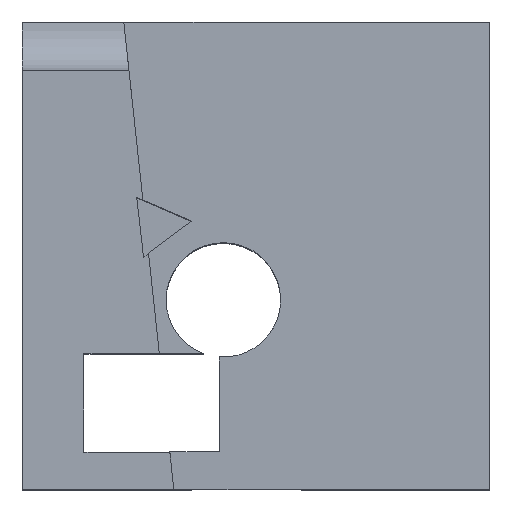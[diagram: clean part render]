
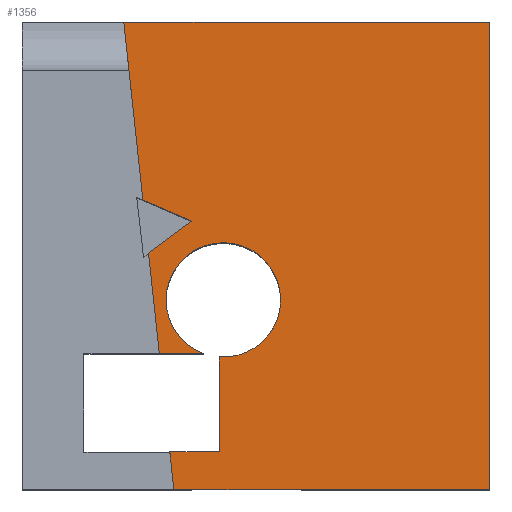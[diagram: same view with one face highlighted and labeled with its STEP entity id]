
A CAD part, top view. The second image highlights one B-rep face of the part: STEP entity #1356.
In plain terms, the highlighted planar face has unit normal (0, 0, 1).
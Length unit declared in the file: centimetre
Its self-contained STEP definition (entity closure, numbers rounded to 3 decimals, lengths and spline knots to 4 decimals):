
#7 = VECTOR ( 'NONE', #1150, 100. ) ;
#12 = EDGE_CURVE ( 'NONE', #1571, #1252, #1138, .T. ) ;
#13 = VECTOR ( 'NONE', #1798, 100. ) ;
#42 = EDGE_CURVE ( 'NONE', #417, #1571, #1019, .T. ) ;
#65 = CARTESIAN_POINT ( 'NONE',  ( 430.1813, 405.7106, 1000. ) ) ;
#82 = ORIENTED_EDGE ( 'NONE', *, *, #689, .T. ) ;
#104 = CARTESIAN_POINT ( 'NONE',  ( 307.746, 405.7106, 1000. ) ) ;
#106 = ORIENTED_EDGE ( 'NONE', *, *, #1865, .F. ) ;
#110 = EDGE_CURVE ( 'NONE', #502, #687, #924, .T. ) ;
#135 = VERTEX_POINT ( 'NONE', #1804 ) ;
#147 = CARTESIAN_POINT ( 'NONE',  ( 552.6166, 405.7106, 1000. ) ) ;
#175 = EDGE_CURVE ( 'NONE', #1669, #417, #1285, .T. ) ;
#225 = CARTESIAN_POINT ( 'NONE',  ( 315.6615, 80.5416, 1000. ) ) ;
#249 = EDGE_CURVE ( 'NONE', #687, #1048, #697, .T. ) ;
#251 = CARTESIAN_POINT ( 'NONE',  ( 388.2468, 290.6807, 1000. ) ) ;
#263 = EDGE_CURVE ( 'NONE', #135, #809, #1550, .T. ) ;
#268 = ORIENTED_EDGE ( 'NONE', *, *, #263, .F. ) ;
#278 = ORIENTED_EDGE ( 'NONE', *, *, #175, .F. ) ;
#285 = CARTESIAN_POINT ( 'NONE',  ( 1000., 1000., 1000. ) ) ;
#319 = CARTESIAN_POINT ( 'NONE',  ( 270.1973, 505.4649, 1000. ) ) ;
#364 = DIRECTION ( 'NONE',  ( 1., 0., 0. ) ) ;
#376 = VERTEX_POINT ( 'NONE', #539 ) ;
#383 = ORIENTED_EDGE ( 'NONE', *, *, #12, .F. ) ;
#385 = ORIENTED_EDGE ( 'NONE', *, *, #906, .F. ) ;
#389 = DIRECTION ( 'NONE',  ( -0.918, 0.398, 0. ) ) ;
#397 = CARTESIAN_POINT ( 'NONE',  ( 0., 1000., 1000. ) ) ;
#400 = ORIENTED_EDGE ( 'NONE', *, *, #1653, .F. ) ;
#417 = VERTEX_POINT ( 'NONE', #225 ) ;
#421 = CARTESIAN_POINT ( 'NONE',  ( 217.2851, 1000., 1000. ) ) ;
#424 = DIRECTION ( 'NONE',  ( 0., 1., 0. ) ) ;
#452 = AXIS2_PLACEMENT_3D ( 'NONE', #1097, #1674, #538 ) ;
#473 = ORIENTED_EDGE ( 'NONE', *, *, #1706, .F. ) ;
#502 = VERTEX_POINT ( 'NONE', #147 ) ;
#506 = VECTOR ( 'NONE', #1727, 100. ) ;
#522 = ORIENTED_EDGE ( 'NONE', *, *, #42, .F. ) ;
#537 = DIRECTION ( 'NONE',  ( 0., 0., 1. ) ) ;
#538 = DIRECTION ( 'NONE',  ( 1., 0., 0. ) ) ;
#539 = CARTESIAN_POINT ( 'NONE',  ( 1000., 0., 1000. ) ) ;
#546 = CARTESIAN_POINT ( 'NONE',  ( 0., 0., 1000. ) ) ;
#568 = LINE ( 'NONE', #1719, #7 ) ;
#572 = AXIS2_PLACEMENT_3D ( 'NONE', #1222, #1081, #364 ) ;
#619 = DIRECTION ( 'NONE',  ( 0., 0., 1. ) ) ;
#620 = LINE ( 'NONE', #1637, #1462 ) ;
#642 = CARTESIAN_POINT ( 'NONE',  ( 257.9533, 619.9016, 1000. ) ) ;
#687 = VERTEX_POINT ( 'NONE', #104 ) ;
#689 = EDGE_CURVE ( 'NONE', #1669, #376, #1579, .T. ) ;
#697 = CIRCLE ( 'NONE', #1672, 122.4353 ) ;
#714 = CARTESIAN_POINT ( 'NONE',  ( 363.0565, 574.3617, 1000. ) ) ;
#746 = EDGE_CURVE ( 'NONE', #1482, #1128, #1114, .T. ) ;
#808 = ORIENTED_EDGE ( 'NONE', *, *, #1516, .T. ) ;
#809 = VERTEX_POINT ( 'NONE', #319 ) ;
#858 = CARTESIAN_POINT ( 'NONE',  ( 132.0472, 80.5416, 1000. ) ) ;
#866 = CARTESIAN_POINT ( 'NONE',  ( 132.0472, 290.6807, 1000. ) ) ;
#868 = DIRECTION ( 'NONE',  ( 1., 0., 0. ) ) ;
#880 = VECTOR ( 'NONE', #389, 100. ) ;
#905 = EDGE_LOOP ( 'NONE', ( #400, #383, #522, #278, #82, #808, #1703, #385, #473, #106, #268, #1416, #1428, #1055 ) ) ;
#906 = EDGE_CURVE ( 'NONE', #1351, #1128, #1529, .T. ) ;
#911 = DIRECTION ( 'NONE',  ( 0., 1., 0. ) ) ;
#924 = CIRCLE ( 'NONE', #1284, 122.4353 ) ;
#959 = PLANE ( 'NONE',  #572 ) ;
#964 = CARTESIAN_POINT ( 'NONE',  ( 430.1813, 405.7106, 1000. ) ) ;
#973 = DIRECTION ( 'NONE',  ( -1., 0., 0. ) ) ;
#1019 = LINE ( 'NONE', #858, #1560 ) ;
#1048 = VERTEX_POINT ( 'NONE', #251 ) ;
#1055 = ORIENTED_EDGE ( 'NONE', *, *, #110, .F. ) ;
#1081 = DIRECTION ( 'NONE',  ( 0., 0., 1. ) ) ;
#1086 = CARTESIAN_POINT ( 'NONE',  ( 421.6268, 80.5416, 1000. ) ) ;
#1097 = CARTESIAN_POINT ( 'NONE',  ( 430.1813, 405.7106, 1000. ) ) ;
#1107 = CARTESIAN_POINT ( 'NONE',  ( 217.2851, 1000., 1000. ) ) ;
#1114 = LINE ( 'NONE', #397, #1395 ) ;
#1128 = VERTEX_POINT ( 'NONE', #421 ) ;
#1138 = LINE ( 'NONE', #1427, #1575 ) ;
#1141 = LINE ( 'NONE', #866, #506 ) ;
#1150 = DIRECTION ( 'NONE',  ( 0.803, 0.596, 0. ) ) ;
#1154 = CARTESIAN_POINT ( 'NONE',  ( 421.6268, 283.5746, 1000. ) ) ;
#1174 = VERTEX_POINT ( 'NONE', #714 ) ;
#1199 = DIRECTION ( 'NONE',  ( 1., 0., 0. ) ) ;
#1222 = CARTESIAN_POINT ( 'NONE',  ( 0., 0., 1000. ) ) ;
#1227 = CARTESIAN_POINT ( 'NONE',  ( 363.0565, 574.3617, 1000. ) ) ;
#1252 = VERTEX_POINT ( 'NONE', #1154 ) ;
#1269 = CARTESIAN_POINT ( 'NONE',  ( 217.2851, 1000., 1000. ) ) ;
#1270 = CIRCLE ( 'NONE', #452, 122.4353 ) ;
#1284 = AXIS2_PLACEMENT_3D ( 'NONE', #65, #619, #1199 ) ;
#1285 = LINE ( 'NONE', #1107, #1337 ) ;
#1337 = VECTOR ( 'NONE', #1384, 100. ) ;
#1351 = VERTEX_POINT ( 'NONE', #642 ) ;
#1356 = ADVANCED_FACE ( 'NONE', ( #1389 ), #959, .T. ) ;
#1384 = DIRECTION ( 'NONE',  ( -0.106, 0.994, 0. ) ) ;
#1389 = FACE_OUTER_BOUND ( 'NONE', #905, .T. ) ;
#1395 = VECTOR ( 'NONE', #973, 100. ) ;
#1397 = LINE ( 'NONE', #1227, #880 ) ;
#1405 = DIRECTION ( 'NONE',  ( 1., 0., 0. ) ) ;
#1416 = ORIENTED_EDGE ( 'NONE', *, *, #1783, .F. ) ;
#1427 = CARTESIAN_POINT ( 'NONE',  ( 421.6268, 80.5416, 1000. ) ) ;
#1428 = ORIENTED_EDGE ( 'NONE', *, *, #249, .F. ) ;
#1462 = VECTOR ( 'NONE', #911, 100. ) ;
#1465 = VECTOR ( 'NONE', #1562, 100. ) ;
#1482 = VERTEX_POINT ( 'NONE', #285 ) ;
#1507 = CARTESIAN_POINT ( 'NONE',  ( 217.2851, 1000., 1000. ) ) ;
#1516 = EDGE_CURVE ( 'NONE', #376, #1482, #620, .T. ) ;
#1526 = DIRECTION ( 'NONE',  ( 1., 0., 0. ) ) ;
#1529 = LINE ( 'NONE', #1507, #13 ) ;
#1550 = LINE ( 'NONE', #1269, #1465 ) ;
#1560 = VECTOR ( 'NONE', #868, 100. ) ;
#1562 = DIRECTION ( 'NONE',  ( -0.106, 0.994, 0. ) ) ;
#1571 = VERTEX_POINT ( 'NONE', #1086 ) ;
#1575 = VECTOR ( 'NONE', #424, 100. ) ;
#1579 = LINE ( 'NONE', #546, #1824 ) ;
#1637 = CARTESIAN_POINT ( 'NONE',  ( 1000., 1000., 1000. ) ) ;
#1653 = EDGE_CURVE ( 'NONE', #1252, #502, #1270, .T. ) ;
#1669 = VERTEX_POINT ( 'NONE', #1683 ) ;
#1672 = AXIS2_PLACEMENT_3D ( 'NONE', #964, #537, #1526 ) ;
#1674 = DIRECTION ( 'NONE',  ( 0., 0., 1. ) ) ;
#1683 = CARTESIAN_POINT ( 'NONE',  ( 324.2789, 0., 1000. ) ) ;
#1703 = ORIENTED_EDGE ( 'NONE', *, *, #746, .T. ) ;
#1706 = EDGE_CURVE ( 'NONE', #1174, #1351, #1397, .T. ) ;
#1719 = CARTESIAN_POINT ( 'NONE',  ( 259.5257, 497.5471, 1000. ) ) ;
#1727 = DIRECTION ( 'NONE',  ( -1., 0., 0. ) ) ;
#1783 = EDGE_CURVE ( 'NONE', #1048, #135, #1141, .T. ) ;
#1798 = DIRECTION ( 'NONE',  ( -0.106, 0.994, 0. ) ) ;
#1804 = CARTESIAN_POINT ( 'NONE',  ( 293.1779, 290.6807, 1000. ) ) ;
#1824 = VECTOR ( 'NONE', #1405, 100. ) ;
#1865 = EDGE_CURVE ( 'NONE', #809, #1174, #568, .T. ) ;
